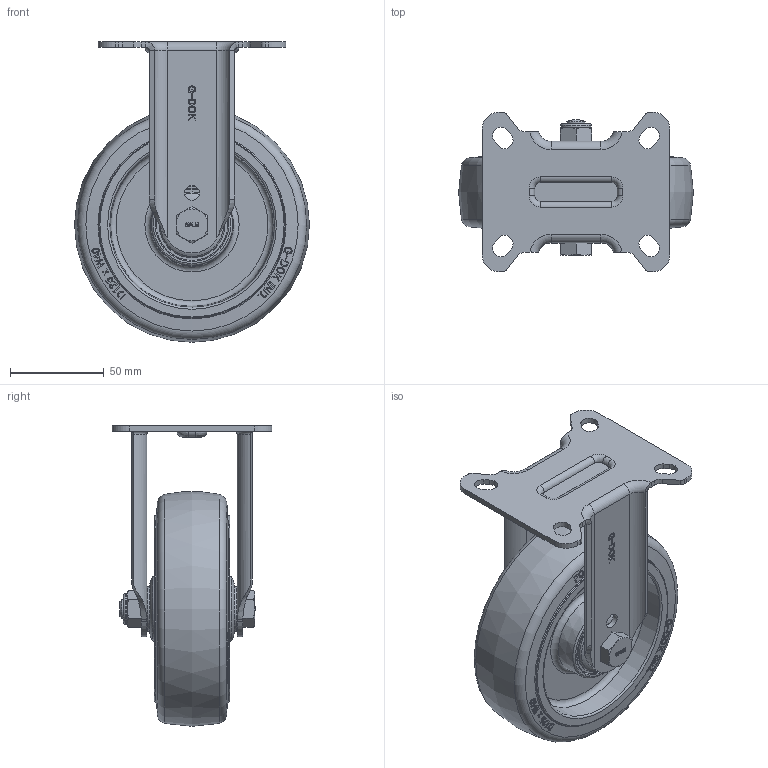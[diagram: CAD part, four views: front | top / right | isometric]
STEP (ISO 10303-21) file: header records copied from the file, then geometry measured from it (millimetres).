
FILE_DESCRIPTION(/* description */ (''),/* implementation_level */ '2;1');
FILE_NAME(/* name */ '\\192.168.10.38\지덕공유\1.기술연구소\2.연구개발 진행중\98.스테인레스캐스터 개발건_2023.10.26\제품설계\3D\홈페이지용\SPLM-125-ARF-HRD-PEU.stp',/* time_stamp */ '2025-02-18T17:07:47+09:00',/* author */ ('admin'),/* organization */ ('지덕산업'),/* preprocessor_version */ 'ST-DEVELOPER v18.1',/* originating_system */ 'Autodesk Inventor 2021',/* authorisation */ '');
FILE_SCHEMA (('CONFIG_CONTROL_DESIGN'));
Length unit declared in the file: millimetre
Products named in the file (1): SPLM-125-ARF-HRD-PEU
Bounding box: 125 x 85 x 160 mm (x, y, z)
Volume: 396444.8 mm3; surface area: 81228.4 mm2
Topology: 1 solids, 1 shells, 918 faces, 2474 edges, 1633 vertices
Faces by surface type: plane 405, bspline 360, cone 70, cylinder 47, torus 36
Full cylindrical faces by diameter (mm): 8 x2, 10 x1, 11 x1, 16.5 x1
Entity records: 31924 total; most frequent: CARTESIAN_POINT 12400, ORIENTED_EDGE 4948, DIRECTION 2675, EDGE_CURVE 2474, VERTEX_POINT 1633, LINE 1085, VECTOR 1085, EDGE_LOOP 1007
